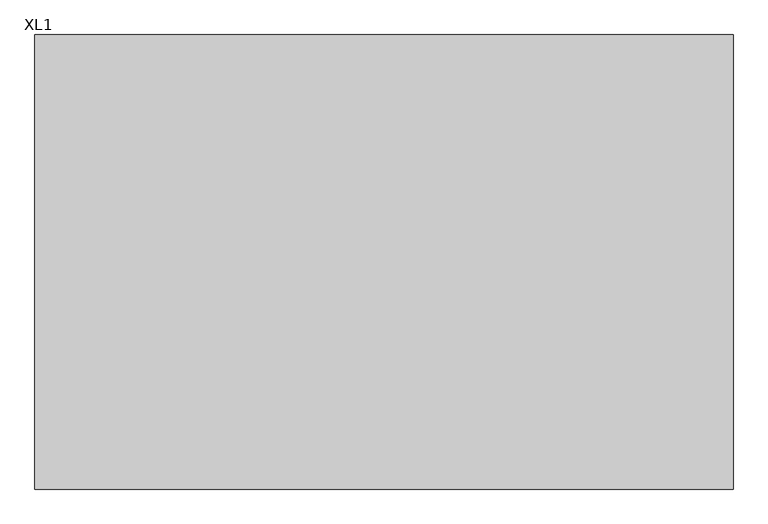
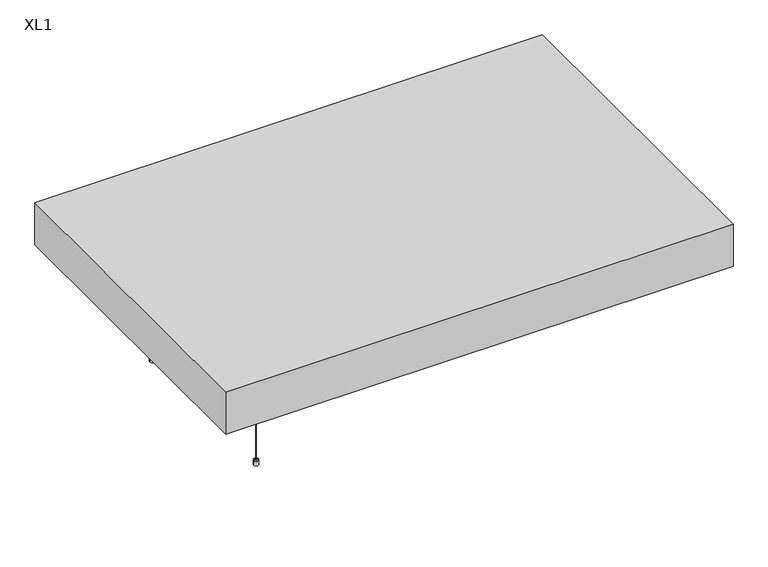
"""IFC4 building model written with IfcOpenShell, lengths in millimetres: proxy geometry, OWA Corpus : XL1."""

from ifc_helpers import new_model, si_unit, point, frame, frame_2d, origin, place, context, project, spatial, polyline, circle_curve, trimmed, segment, composite_curve, outline, extrude, faceted_brep, source, transform, mapped, element, save
from ifc_brep_helpers import plane_surface, cylinder_surface, revolved_surface, advanced_brep


def xl1_b52fa71d(model_context):
    return source(origin(), model_context, "Body", "SolidModel", [
        advanced_brep(
        [(-1043.5, -305.0, 0.0), (-1035.7593825, -305.0, 0.0), (-1051.2406175, -305.0, 0.0), (-1035.7593825, -305.0, 15.0), (-1051.2406175, -305.0, 15.0), (-1036.6843825, -305.0, 15.0), (-1050.3156175, -305.0, 15.0), (-1036.6843825, -305.0, 19.0), (-1050.3156175, -305.0, 19.0), (-1041.4343825, -305.0, 19.0), (-1045.5656175, -305.0, 19.0), (-1041.4343825, -305.0, 22.546183), (-1045.5656175, -305.0, 22.546183), (-1043.5, -305.0, 22.546183)],
        [
            (0, 1),
            (1, 2, circle_curve(frame((-1043.5, -305.0, 0.0), z_axis=(0.0, 0.0, -1.0), x_axis=(-1.0, 0.0, 0.0)), 7.7406175)),
            (2, 0),
            (2, 1, circle_curve(frame((-1043.5, -305.0, 0.0), z_axis=(0.0, 0.0, -1.0), x_axis=(-1.0, 0.0, 0.0)), 7.7406175)),
            (1, 3),
            (3, 4, circle_curve(frame((-1043.5, -305.0, 15.0), z_axis=(0.0, 0.0, -1.0), x_axis=(-1.0, 0.0, 0.0)), 7.7406175)),
            (4, 2),
            (4, 3, circle_curve(frame((-1043.5, -305.0, 15.0), z_axis=(0.0, 0.0, -1.0), x_axis=(-1.0, 0.0, 0.0)), 7.7406175)),
            (3, 5),
            (5, 6, circle_curve(frame((-1043.5, -305.0, 15.0), z_axis=(0.0, 0.0, -1.0), x_axis=(-1.0, 0.0, 0.0)), 6.8156175)),
            (6, 4),
            (6, 5, circle_curve(frame((-1043.5, -305.0, 15.0), z_axis=(0.0, 0.0, -1.0), x_axis=(-1.0, 0.0, 0.0)), 6.8156175)),
            (5, 7),
            (7, 8, circle_curve(frame((-1043.5, -305.0, 19.0), z_axis=(0.0, 0.0, -1.0), x_axis=(-1.0, 0.0, 0.0)), 6.8156175)),
            (8, 6),
            (8, 7, circle_curve(frame((-1043.5, -305.0, 19.0), z_axis=(0.0, 0.0, -1.0), x_axis=(-1.0, 0.0, 0.0)), 6.8156175)),
            (7, 9),
            (9, 10, circle_curve(frame((-1043.5, -305.0, 19.0), z_axis=(0.0, 0.0, -1.0), x_axis=(-1.0, 0.0, 0.0)), 2.0656175)),
            (10, 8),
            (10, 9, circle_curve(frame((-1043.5, -305.0, 19.0), z_axis=(0.0, 0.0, -1.0), x_axis=(-1.0, 0.0, 0.0)), 2.0656175)),
            (9, 11),
            (11, 12, circle_curve(frame((-1043.5, -305.0, 22.546183), z_axis=(0.0, 0.0, -1.0), x_axis=(-1.0, 0.0, 0.0)), 2.0656175)),
            (12, 10),
            (12, 11, circle_curve(frame((-1043.5, -305.0, 22.546183), z_axis=(0.0, 0.0, -1.0), x_axis=(-1.0, 0.0, 0.0)), 2.0656175)),
            (11, 13),
            (13, 12),
        ],
        [
            plane_surface(frame((-1043.5, -305.0, 0.0), z_axis=(0.0, 0.0, -1.0), x_axis=(-1.0, 0.0, 0.0))),
            cylinder_surface(frame((-1043.5, -305.0, -10.0), z_axis=(0.0, 0.0, -1.0), x_axis=(-1.0, 0.0, 0.0)), 7.7406175),
            plane_surface(frame((-1043.5, -305.0, 15.0), z_axis=(0.0, 0.0, 1.0), x_axis=(-1.0, 0.0, 0.0))),
            cylinder_surface(frame((-1043.5, -305.0, -10.0), z_axis=(0.0, 0.0, -1.0), x_axis=(-1.0, 0.0, 0.0)), 6.8156175),
            plane_surface(frame((-1043.5, -305.0, 19.0), z_axis=(0.0, 0.0, 1.0), x_axis=(-1.0, 0.0, 0.0))),
            cylinder_surface(frame((-1043.5, -305.0, -10.0), z_axis=(0.0, 0.0, -1.0), x_axis=(-1.0, 0.0, 0.0)), 2.0656175),
            plane_surface(frame((-1043.5, -305.0, 22.546183), z_axis=(0.0, 0.0, 1.0), x_axis=(-1.0, 0.0, 0.0))),
        ],
        [
            (0, [[1, 2, 3]]),
            (0, [[-3, 4, -1]]),
            (1, [[5, 6, 7, -2]]),
            (1, [[-7, 8, -5, -4]]),
            (2, [[9, 10, 11, -6]]),
            (2, [[-11, 12, -9, -8]]),
            (3, [[13, 14, 15, -10]]),
            (3, [[-15, 16, -13, -12]]),
            (4, [[17, 18, 19, -14]]),
            (4, [[-19, 20, -17, -16]]),
            (5, [[21, 22, 23, -18]]),
            (5, [[-23, 24, -21, -20]]),
            (6, [[25, 26, -22]]),
            (6, [[-26, -25, -24]]),
        ],
    ),
        advanced_brep(
        [(-1041.2615389, -305.0, 428.8211737), (-1041.1339453, -305.0, 432.8711737), (-1045.8660547, -305.0, 432.8711737), (-1045.7384611, -305.0, 428.8211737), (-1038.6339453, -305.0, 432.8711737), (-1048.3660547, -305.0, 432.8711737), (-1038.6339453, -305.0, 458.1211737), (-1048.3660547, -305.0, 458.1211737), (-1027.6339453, -305.0, 458.1211737), (-1059.3660547, -305.0, 458.1211737), (-1027.6339453, -305.0, 460.0), (-1059.3660547, -305.0, 460.0), (-1043.5, -305.0, 460.0), (-1043.5, -305.0, 428.8211737)],
        [
            (0, 1),
            (1, 2, circle_curve(frame((-1043.5, -305.0, 432.8711737), z_axis=(0.0, 0.0, -1.0), x_axis=(-1.0, 0.0, 0.0)), 2.3660547)),
            (2, 3),
            (3, 0, circle_curve(frame((-1043.5, -305.0, 428.8211737), z_axis=(0.0, 0.0, 1.0), x_axis=(-1.0, 0.0, 0.0)), 2.2384611)),
            (2, 1, circle_curve(frame((-1043.5, -305.0, 432.8711737), z_axis=(0.0, 0.0, -1.0), x_axis=(-1.0, 0.0, 0.0)), 2.3660547)),
            (0, 3, circle_curve(frame((-1043.5, -305.0, 428.8211737), z_axis=(0.0, 0.0, 1.0), x_axis=(-1.0, 0.0, 0.0)), 2.2384611)),
            (1, 4),
            (4, 5, circle_curve(frame((-1043.5, -305.0, 432.8711737), z_axis=(0.0, 0.0, -1.0), x_axis=(-1.0, 0.0, 0.0)), 4.8660547)),
            (5, 2),
            (5, 4, circle_curve(frame((-1043.5, -305.0, 432.8711737), z_axis=(0.0, 0.0, -1.0), x_axis=(-1.0, 0.0, 0.0)), 4.8660547)),
            (4, 6),
            (6, 7, circle_curve(frame((-1043.5, -305.0, 458.1211737), z_axis=(0.0, 0.0, -1.0), x_axis=(-1.0, 0.0, 0.0)), 4.8660547)),
            (7, 5),
            (7, 6, circle_curve(frame((-1043.5, -305.0, 458.1211737), z_axis=(0.0, 0.0, -1.0), x_axis=(-1.0, 0.0, 0.0)), 4.8660547)),
            (6, 8),
            (8, 9, circle_curve(frame((-1043.5, -305.0, 458.1211737), z_axis=(0.0, 0.0, -1.0), x_axis=(-1.0, 0.0, 0.0)), 15.8660547)),
            (9, 7),
            (9, 8, circle_curve(frame((-1043.5, -305.0, 458.1211737), z_axis=(0.0, 0.0, -1.0), x_axis=(-1.0, 0.0, 0.0)), 15.8660547)),
            (8, 10),
            (10, 11, circle_curve(frame((-1043.5, -305.0, 460.0), z_axis=(0.0, 0.0, -1.0), x_axis=(-1.0, 0.0, 0.0)), 15.8660547)),
            (11, 9),
            (11, 10, circle_curve(frame((-1043.5, -305.0, 460.0), z_axis=(0.0, 0.0, -1.0), x_axis=(-1.0, 0.0, 0.0)), 15.8660547)),
            (10, 12),
            (12, 11),
            (13, 0),
            (3, 13),
        ],
        [
            revolved_surface(polyline([(-1045.8660547, -305.0, 432.8711737), (-1045.7384611, -305.0, 428.8211737)]), (-1043.5, -305.0, 461.8401096), (0.0, 0.0, -1.0)),
            plane_surface(frame((-1043.5, -305.0, 432.8711737), z_axis=(0.0, 0.0, -1.0), x_axis=(-1.0, 0.0, 0.0))),
            cylinder_surface(frame((-1043.5, -305.0, 461.8401096), z_axis=(0.0, 0.0, -1.0), x_axis=(-1.0, 0.0, 0.0)), 4.8660547),
            plane_surface(frame((-1043.5, -305.0, 458.1211737), z_axis=(0.0, 0.0, -1.0), x_axis=(-1.0, 0.0, 0.0))),
            cylinder_surface(frame((-1043.5, -305.0, 461.8401096), z_axis=(0.0, 0.0, -1.0), x_axis=(-1.0, 0.0, 0.0)), 15.8660547),
            plane_surface(frame((-1043.5, -305.0, 460.0), z_axis=(0.0, 0.0, 1.0), x_axis=(-1.0, 0.0, 0.0))),
            plane_surface(frame((-1043.5, -305.0, 428.8211737), z_axis=(0.0, 0.0, -1.0), x_axis=(-1.0, 0.0, 0.0))),
        ],
        [
            (0, [[1, 2, 3, 4]]),
            (0, [[-3, 5, -1, 6]]),
            (1, [[7, 8, 9, -2]]),
            (1, [[-9, 10, -7, -5]]),
            (2, [[11, 12, 13, -8]]),
            (2, [[-13, 14, -11, -10]]),
            (3, [[15, 16, 17, -12]]),
            (3, [[-17, 18, -15, -14]]),
            (4, [[19, 20, 21, -16]]),
            (4, [[-21, 22, -19, -18]]),
            (5, [[23, 24, -20]]),
            (5, [[-24, -23, -22]]),
            (6, [[25, -4, 26]]),
            (6, [[-26, -6, -25]]),
        ],
    ),
        extrude(outline(composite_curve([segment(trimmed(circle_curve(frame_2d((-1043.5, -305.0)), 1.0), [point((-1044.5, -305.0))], [point((-1042.5, -305.0))], False, "CARTESIAN"), True, "CONTINUOUS"), segment(trimmed(circle_curve(frame_2d((-1043.5, -305.0)), 1.0), [point((-1042.5, -305.0))], [point((-1044.5, -305.0))], False, "CARTESIAN"), True, "CONTINUOUS")], self_intersect=False)), frame((0.0, 0.0, 22.546183), z_axis=(0.0, 0.0, 1.0), x_axis=(1.0, 0.0, 0.0)), (0.0, 0.0, 1.0), 406.2749908),
        advanced_brep(
        [(-1043.5, 305.0, 0.0), (-1051.2406175, 305.0, 0.0), (-1035.7593825, 305.0, 0.0), (-1051.2406175, 305.0, 15.0), (-1035.7593825, 305.0, 15.0), (-1050.3156175, 305.0, 15.0), (-1036.6843825, 305.0, 15.0), (-1050.3156175, 305.0, 19.0), (-1036.6843825, 305.0, 19.0), (-1045.5656175, 305.0, 19.0), (-1041.4343825, 305.0, 19.0), (-1045.5656175, 305.0, 22.546183), (-1041.4343825, 305.0, 22.546183), (-1043.5, 305.0, 22.546183)],
        [
            (0, 1),
            (1, 2, circle_curve(frame((-1043.5, 305.0, 0.0), z_axis=(0.0, 0.0, -1.0), x_axis=(-1.0, 0.0, 0.0)), 7.7406175)),
            (2, 0),
            (2, 1, circle_curve(frame((-1043.5, 305.0, 0.0), z_axis=(0.0, 0.0, -1.0), x_axis=(-1.0, 0.0, 0.0)), 7.7406175)),
            (1, 3),
            (3, 4, circle_curve(frame((-1043.5, 305.0, 15.0), z_axis=(0.0, 0.0, -1.0), x_axis=(-1.0, 0.0, 0.0)), 7.7406175)),
            (4, 2),
            (4, 3, circle_curve(frame((-1043.5, 305.0, 15.0), z_axis=(0.0, 0.0, -1.0), x_axis=(-1.0, 0.0, 0.0)), 7.7406175)),
            (3, 5),
            (5, 6, circle_curve(frame((-1043.5, 305.0, 15.0), z_axis=(0.0, 0.0, -1.0), x_axis=(-1.0, 0.0, 0.0)), 6.8156175)),
            (6, 4),
            (6, 5, circle_curve(frame((-1043.5, 305.0, 15.0), z_axis=(0.0, 0.0, -1.0), x_axis=(-1.0, 0.0, 0.0)), 6.8156175)),
            (5, 7),
            (7, 8, circle_curve(frame((-1043.5, 305.0, 19.0), z_axis=(0.0, 0.0, -1.0), x_axis=(-1.0, 0.0, 0.0)), 6.8156175)),
            (8, 6),
            (8, 7, circle_curve(frame((-1043.5, 305.0, 19.0), z_axis=(0.0, 0.0, -1.0), x_axis=(-1.0, 0.0, 0.0)), 6.8156175)),
            (7, 9),
            (9, 10, circle_curve(frame((-1043.5, 305.0, 19.0), z_axis=(0.0, 0.0, -1.0), x_axis=(-1.0, 0.0, 0.0)), 2.0656175)),
            (10, 8),
            (10, 9, circle_curve(frame((-1043.5, 305.0, 19.0), z_axis=(0.0, 0.0, -1.0), x_axis=(-1.0, 0.0, 0.0)), 2.0656175)),
            (9, 11),
            (11, 12, circle_curve(frame((-1043.5, 305.0, 22.546183), z_axis=(0.0, 0.0, -1.0), x_axis=(-1.0, 0.0, 0.0)), 2.0656175)),
            (12, 10),
            (12, 11, circle_curve(frame((-1043.5, 305.0, 22.546183), z_axis=(0.0, 0.0, -1.0), x_axis=(-1.0, 0.0, 0.0)), 2.0656175)),
            (11, 13),
            (13, 12),
        ],
        [
            plane_surface(frame((-1043.5, 305.0, 0.0), z_axis=(0.0, 0.0, -1.0), x_axis=(-1.0, 0.0, 0.0))),
            cylinder_surface(frame((-1043.5, 305.0, -10.0), z_axis=(0.0, 0.0, -1.0), x_axis=(-1.0, 0.0, 0.0)), 7.7406175),
            plane_surface(frame((-1043.5, 305.0, 15.0), z_axis=(0.0, 0.0, 1.0), x_axis=(-1.0, 0.0, 0.0))),
            cylinder_surface(frame((-1043.5, 305.0, -10.0), z_axis=(0.0, 0.0, -1.0), x_axis=(-1.0, 0.0, 0.0)), 6.8156175),
            plane_surface(frame((-1043.5, 305.0, 19.0), z_axis=(0.0, 0.0, 1.0), x_axis=(-1.0, 0.0, 0.0))),
            cylinder_surface(frame((-1043.5, 305.0, -10.0), z_axis=(0.0, 0.0, -1.0), x_axis=(-1.0, 0.0, 0.0)), 2.0656175),
            plane_surface(frame((-1043.5, 305.0, 22.546183), z_axis=(0.0, 0.0, 1.0), x_axis=(-1.0, 0.0, 0.0))),
        ],
        [
            (0, [[1, 2, 3]]),
            (0, [[-3, 4, -1]]),
            (1, [[-2, 5, 6, 7]]),
            (1, [[-4, -7, 8, -5]]),
            (2, [[-6, 9, 10, 11]]),
            (2, [[-8, -11, 12, -9]]),
            (3, [[-10, 13, 14, 15]]),
            (3, [[-12, -15, 16, -13]]),
            (4, [[-14, 17, 18, 19]]),
            (4, [[-16, -19, 20, -17]]),
            (5, [[-18, 21, 22, 23]]),
            (5, [[-20, -23, 24, -21]]),
            (6, [[-22, 25, 26]]),
            (6, [[-24, -26, -25]]),
        ],
    ),
        advanced_brep(
        [(-1041.2615389, 305.0, 428.8211737), (-1045.7384611, 305.0, 428.8211737), (-1045.8660547, 305.0, 432.8711737), (-1041.1339453, 305.0, 432.8711737), (-1048.3660547, 305.0, 432.8711737), (-1038.6339453, 305.0, 432.8711737), (-1048.3660547, 305.0, 458.1211737), (-1038.6339453, 305.0, 458.1211737), (-1059.3660547, 305.0, 458.1211737), (-1027.6339453, 305.0, 458.1211737), (-1059.3660547, 305.0, 460.0), (-1027.6339453, 305.0, 460.0), (-1043.5, 305.0, 460.0), (-1043.5, 305.0, 428.8211737)],
        [
            (0, 1, circle_curve(frame((-1043.5, 305.0, 428.8211737), z_axis=(0.0, 0.0, 1.0), x_axis=(-1.0, 0.0, 0.0)), 2.2384611)),
            (1, 2),
            (2, 3, circle_curve(frame((-1043.5, 305.0, 432.8711737), z_axis=(0.0, 0.0, -1.0), x_axis=(-1.0, 0.0, 0.0)), 2.3660547)),
            (3, 0),
            (1, 0, circle_curve(frame((-1043.5, 305.0, 428.8211737), z_axis=(0.0, 0.0, 1.0), x_axis=(-1.0, 0.0, 0.0)), 2.2384611)),
            (3, 2, circle_curve(frame((-1043.5, 305.0, 432.8711737), z_axis=(0.0, 0.0, -1.0), x_axis=(-1.0, 0.0, 0.0)), 2.3660547)),
            (2, 4),
            (4, 5, circle_curve(frame((-1043.5, 305.0, 432.8711737), z_axis=(0.0, 0.0, -1.0), x_axis=(-1.0, 0.0, 0.0)), 4.8660547)),
            (5, 3),
            (5, 4, circle_curve(frame((-1043.5, 305.0, 432.8711737), z_axis=(0.0, 0.0, -1.0), x_axis=(-1.0, 0.0, 0.0)), 4.8660547)),
            (4, 6),
            (6, 7, circle_curve(frame((-1043.5, 305.0, 458.1211737), z_axis=(0.0, 0.0, -1.0), x_axis=(-1.0, 0.0, 0.0)), 4.8660547)),
            (7, 5),
            (7, 6, circle_curve(frame((-1043.5, 305.0, 458.1211737), z_axis=(0.0, 0.0, -1.0), x_axis=(-1.0, 0.0, 0.0)), 4.8660547)),
            (6, 8),
            (8, 9, circle_curve(frame((-1043.5, 305.0, 458.1211737), z_axis=(0.0, 0.0, -1.0), x_axis=(-1.0, 0.0, 0.0)), 15.8660547)),
            (9, 7),
            (9, 8, circle_curve(frame((-1043.5, 305.0, 458.1211737), z_axis=(0.0, 0.0, -1.0), x_axis=(-1.0, 0.0, 0.0)), 15.8660547)),
            (8, 10),
            (10, 11, circle_curve(frame((-1043.5, 305.0, 460.0), z_axis=(0.0, 0.0, -1.0), x_axis=(-1.0, 0.0, 0.0)), 15.8660547)),
            (11, 9),
            (11, 10, circle_curve(frame((-1043.5, 305.0, 460.0), z_axis=(0.0, 0.0, -1.0), x_axis=(-1.0, 0.0, 0.0)), 15.8660547)),
            (10, 12),
            (12, 11),
            (13, 1),
            (0, 13),
        ],
        [
            revolved_surface(polyline([(-1045.8660547, 305.0, 432.8711737), (-1045.7384611, 305.0, 428.8211737)]), (-1043.5, 305.0, 461.8401096), (0.0, 0.0, -1.0)),
            plane_surface(frame((-1043.5, 305.0, 432.8711737), z_axis=(0.0, 0.0, -1.0), x_axis=(-1.0, 0.0, 0.0))),
            cylinder_surface(frame((-1043.5, 305.0, 461.8401096), z_axis=(0.0, 0.0, -1.0), x_axis=(-1.0, 0.0, 0.0)), 4.8660547),
            plane_surface(frame((-1043.5, 305.0, 458.1211737), z_axis=(0.0, 0.0, -1.0), x_axis=(-1.0, 0.0, 0.0))),
            cylinder_surface(frame((-1043.5, 305.0, 461.8401096), z_axis=(0.0, 0.0, -1.0), x_axis=(-1.0, 0.0, 0.0)), 15.8660547),
            plane_surface(frame((-1043.5, 305.0, 460.0), z_axis=(0.0, 0.0, 1.0), x_axis=(-1.0, 0.0, 0.0))),
            plane_surface(frame((-1043.5, 305.0, 428.8211737), z_axis=(0.0, 0.0, -1.0), x_axis=(-1.0, 0.0, 0.0))),
        ],
        [
            (0, [[1, 2, 3, 4]]),
            (0, [[5, -4, 6, -2]]),
            (1, [[-3, 7, 8, 9]]),
            (1, [[-6, -9, 10, -7]]),
            (2, [[-8, 11, 12, 13]]),
            (2, [[-10, -13, 14, -11]]),
            (3, [[-12, 15, 16, 17]]),
            (3, [[-14, -17, 18, -15]]),
            (4, [[-16, 19, 20, 21]]),
            (4, [[-18, -21, 22, -19]]),
            (5, [[-20, 23, 24]]),
            (5, [[-22, -24, -23]]),
            (6, [[25, -1, 26]]),
            (6, [[-26, -5, -25]]),
        ],
    ),
        extrude(outline(composite_curve([segment(trimmed(circle_curve(frame_2d((-1043.5, 305.0)), 1.0), [point((-1044.5, 305.0))], [point((-1042.5, 305.0))], False, "CARTESIAN"), True, "CONTINUOUS"), segment(trimmed(circle_curve(frame_2d((-1043.5, 305.0)), 1.0), [point((-1042.5, 305.0))], [point((-1044.5, 305.0))], False, "CARTESIAN"), True, "CONTINUOUS")], self_intersect=False)), frame((0.0, 0.0, 22.546183), z_axis=(0.0, 0.0, 1.0), x_axis=(1.0, 0.0, 0.0)), (0.0, 0.0, 1.0), 406.2749908),
        faceted_brep([(426.5, 560.0, 500.0), (-1293.5, 560.0, 500.0), (-1293.5, -560.0, 500.0), (426.5, -560.0, 500.0), (386.5, 520.0, 460.0), (386.5, -520.0, 460.0), (-1253.5, -520.0, 460.0), (-1253.5, 520.0, 460.0), (426.5, 560.0, 350.0), (-1293.5, 560.0, 350.0), (-1293.5, -560.0, 350.0), (426.5, -560.0, 350.0), (386.5, 520.0, 350.0), (-1253.5, 520.0, 350.0), (-1253.5, -520.0, 350.0), (386.5, -520.0, 350.0)], [[[0, 1, 2, 3]], [[4, 5, 6, 7]], [[1, 0, 8, 9]], [[2, 1, 9, 10]], [[3, 2, 10, 11]], [[8, 0, 3, 11]], [[8, 11, 10, 9], [12, 13, 14, 15]], [[12, 15, 5, 4]], [[15, 14, 6, 5]], [[14, 13, 7, 6]], [[13, 12, 4, 7]]]),
    ])


if __name__ == "__main__":
    model = new_model("IFC4")
    model_context = context("Model", 3, world=origin())
    ifc_project = project(units=[si_unit("LENGTHUNIT", "METRE", prefix="MILLI")], contexts=[model_context])
    site = spatial("IfcSite", under=ifc_project)
    building = spatial("IfcBuilding", under=site)
    placement = place(None, origin())
    xl1_shape = xl1_b52fa71d(model_context)
    element("IfcBuildingElementProxy", 1, Name="OWA Corpus : XL1", ObjectType="OWA Corpus : XL1", at=placement, inside=building, context=model_context, shape_type="MappedRepresentation", body=[
        mapped(xl1_shape, transform((0.0, 0.0, 0.0), x_axis=(1.0, 0.0, 0.0), y_axis=(0.0, 1.0, 0.0), z_axis=(0.0, 0.0, 1.0))),
    ])
    save(model, "model.ifc")
